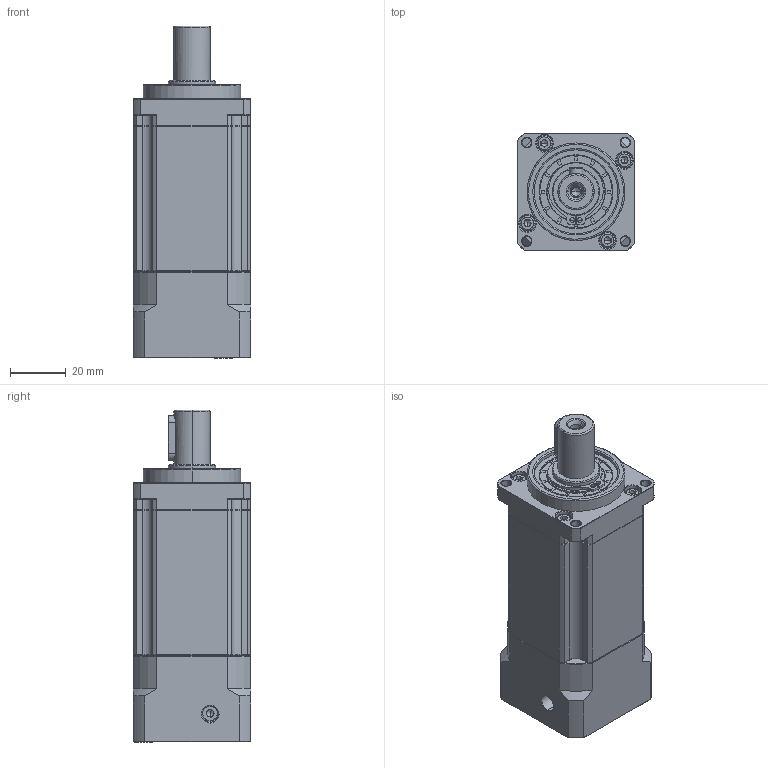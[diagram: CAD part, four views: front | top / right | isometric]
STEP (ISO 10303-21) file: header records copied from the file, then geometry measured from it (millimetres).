
FILE_DESCRIPTION (( 'STEP AP214' ), '1' );
FILE_NAME ('ZB040-L3-P2-8-30-46-M4.STEP', '2023-06-06T12:49:47', ( 'Windows 蚚誧' ), ( 'Organization' ), 'SwSTEP 2.0', 'SolidWorks 2016', '' );
FILE_SCHEMA (( 'AUTOMOTIVE_DESIGN' ));
Length unit declared in the file: millimetre
Products named in the file (1): ZB040-L3-P2-8-30-46-M4
Bounding box: 42 x 42 x 119 mm (x, y, z)
Volume: 147868.9 mm3; surface area: 31665 mm2
Topology: 6 solids, 6 shells, 1694 faces, 4386 edges, 2780 vertices
Faces by surface type: plane 675, cylinder 417, cone 303, bspline 279, torus 20
Entity records: 90114 total; most frequent: CARTESIAN_POINT 32690, ORIENTED_EDGE 8712, DIRECTION 7044, EDGE_CURVE 4356, VERTEX_POINT 2780, VECTOR 2436, LINE 2436, AXIS2_PLACEMENT_3D 2304
